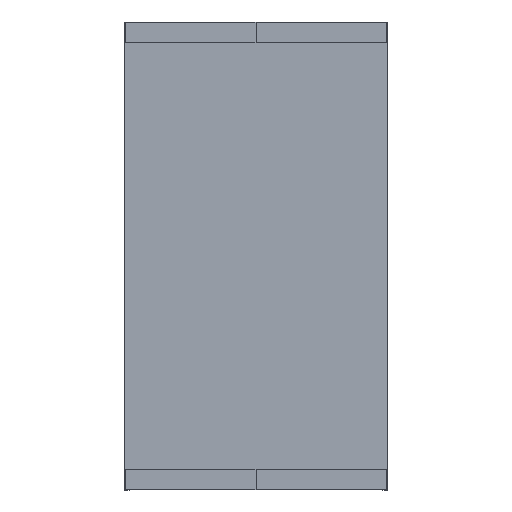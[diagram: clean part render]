
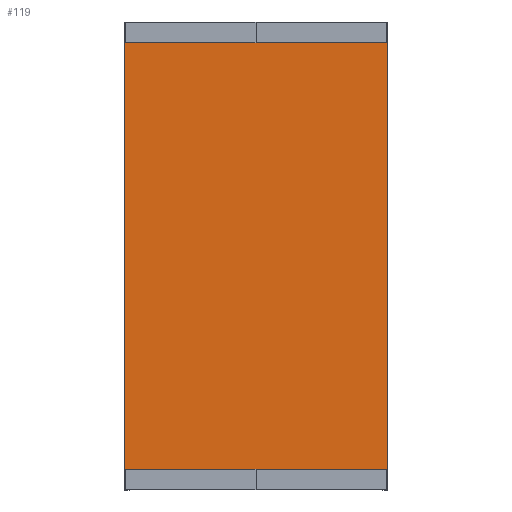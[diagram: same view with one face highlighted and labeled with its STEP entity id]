
A CAD part, top view. The second image highlights one B-rep face of the part: STEP entity #119.
In plain terms, the highlighted planar face has unit normal (0, 0, 1).
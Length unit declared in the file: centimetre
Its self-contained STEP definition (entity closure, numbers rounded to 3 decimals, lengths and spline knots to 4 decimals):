
#119=ADVANCED_FACE($,(#285),#2015,.T.);
#285=FACE_OUTER_BOUND($,#451,.T.);
#451=EDGE_LOOP($,(#874,#875,#876,#877));
#874=ORIENTED_EDGE($,*,*,#1470,.F.);
#875=ORIENTED_EDGE($,*,*,#1471,.F.);
#876=ORIENTED_EDGE($,*,*,#1475,.F.);
#877=ORIENTED_EDGE($,*,*,#1467,.F.);
#1467=EDGE_CURVE($,#1797,#1796,#2263,.T.);
#1470=EDGE_CURVE($,#1800,#1797,#2266,.T.);
#1471=EDGE_CURVE($,#1801,#1800,#2267,.T.);
#1475=EDGE_CURVE($,#1796,#1801,#2271,.T.);
#1796=VERTEX_POINT($,#3454);
#1797=VERTEX_POINT($,#3455);
#1800=VERTEX_POINT($,#3458);
#1801=VERTEX_POINT($,#3459);
#2015=PLANE($,#2649);
#2263=B_SPLINE_CURVE_WITH_KNOTS($,3,(#3426,#3427,#3428,#3429),.UNSPECIFIED.,
.F.,.F.,(4,4),(0.,89.9),.UNSPECIFIED.);
#2266=B_SPLINE_CURVE_WITH_KNOTS($,1,(#3434,#3435),.UNSPECIFIED.,.F.,.F.,
(2,2),(0.,145.97),.UNSPECIFIED.);
#2267=B_SPLINE_CURVE_WITH_KNOTS($,1,(#3436,#3437),.UNSPECIFIED.,.F.,.F.,
(2,2),(0.,89.9),.UNSPECIFIED.);
#2271=B_SPLINE_CURVE_WITH_KNOTS($,1,(#3444,#3445),.UNSPECIFIED.,.F.,.F.,
(2,2),(20.03,166.),.UNSPECIFIED.);
#2649=AXIS2_PLACEMENT_3D($,#3451,#2818,$);
#2818=DIRECTION($,(0.,0.,1.));
#3426=CARTESIAN_POINT($,(-60.95,83.97,74.51));
#3427=CARTESIAN_POINT($,(-30.9833,83.97,74.51));
#3428=CARTESIAN_POINT($,(-1.0167,83.97,74.51));
#3429=CARTESIAN_POINT($,(28.95,83.97,74.51));
#3434=CARTESIAN_POINT($,(-60.95,-62.,74.51));
#3435=CARTESIAN_POINT($,(-60.95,83.97,74.51));
#3436=CARTESIAN_POINT($,(28.95,-62.,74.51));
#3437=CARTESIAN_POINT($,(-60.95,-62.,74.51));
#3444=CARTESIAN_POINT($,(28.95,83.97,74.51));
#3445=CARTESIAN_POINT($,(28.95,-62.,74.51));
#3451=CARTESIAN_POINT($,(-60.95,-62.,74.51));
#3454=CARTESIAN_POINT($,(28.95,83.97,74.51));
#3455=CARTESIAN_POINT($,(-60.95,83.97,74.51));
#3458=CARTESIAN_POINT($,(-60.95,-62.,74.51));
#3459=CARTESIAN_POINT($,(28.95,-62.,74.51));
